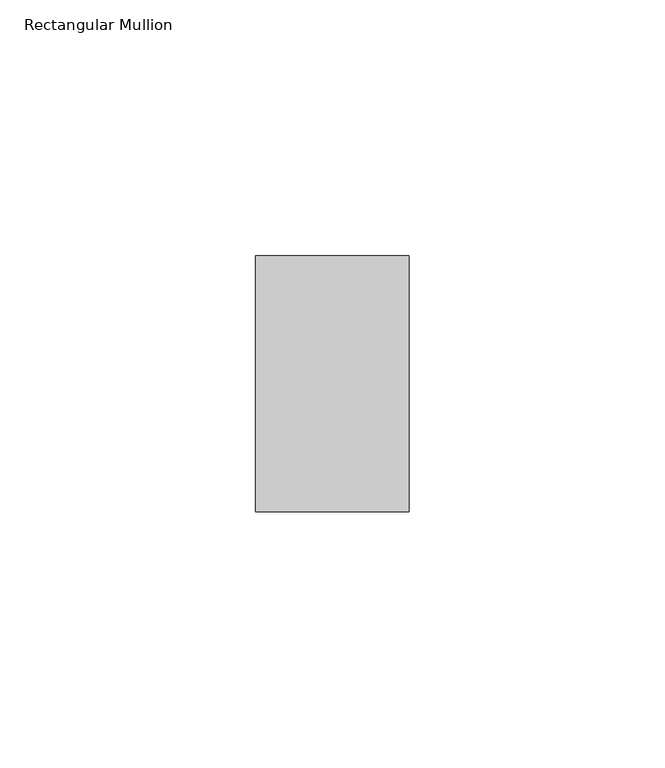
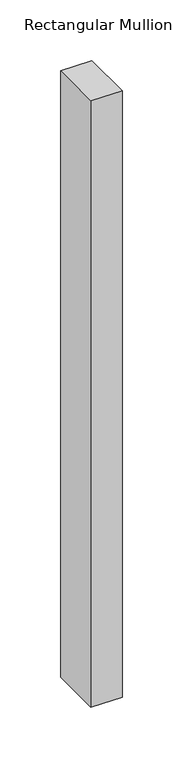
"""IFC4 building model written with IfcOpenShell, lengths in millimetres: member geometry, Rectangular Mullion : ARQ_TV_MULL_50x30mm."""

from ifc_helpers import new_model, si_unit, frame, origin, place, context, project, spatial, polyline, outline, extrude, source, transform, mapped, element, save


def rectangular_mullion_434fb2f1(model_context):
    return source(origin(), model_context, "Body", "SweptSolid", [
        extrude(outline(polyline([(0.0, 25.0), (0.0, -25.0), (-30.0, -25.0), (-30.0, 25.0), (0.0, 25.0)])), frame((0.0, 0.0, -611.8754037), z_axis=(0.0, 0.0, 1.0), x_axis=(1.0, 0.0, 0.0)), (0.0, 0.0, 1.0), 611.8754037),
    ])


if __name__ == "__main__":
    model = new_model("IFC4")
    model_context = context("Model", 3, world=origin())
    ifc_project = project(units=[si_unit("LENGTHUNIT", "METRE", prefix="MILLI")], contexts=[model_context])
    site = spatial("IfcSite", under=ifc_project)
    building = spatial("IfcBuilding", under=site)
    placement = place(None, origin())
    rectangular_mullion_shape = rectangular_mullion_434fb2f1(model_context)
    element("IfcMember", 1, ObjectType="Rectangular Mullion : ARQ_TV_MULL_50x30mm", at=placement, inside=building, context=model_context, shape_type="MappedRepresentation", body=[
        mapped(rectangular_mullion_shape, transform((0.0, 0.0, 0.0), x_axis=(1.0, 0.0, 0.0), y_axis=(0.0, 1.0, 0.0), z_axis=(0.0, 0.0, 1.0))),
    ])
    save(model, "model.ifc")
